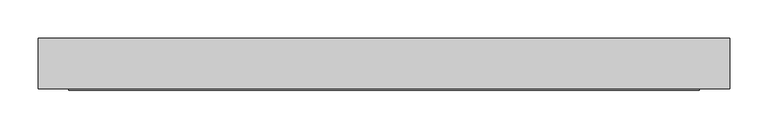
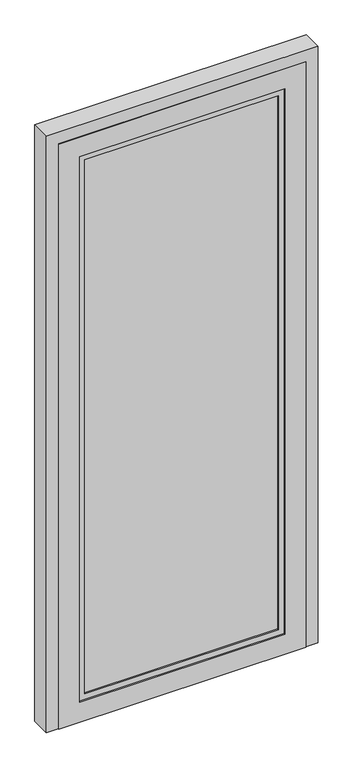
"""IFC4 building model written with IfcOpenShell, lengths in millimetres: plate geometry, ARQ-PA-IN-AluVid-Puerta : ARQ-PA-IN-AluVid-Puerta."""

from ifc_helpers import new_model, si_unit, frame, origin, place, context, project, spatial, polyline, outline, extrude, source, transform, mapped, element, save


def plate_d8b661f9(model_context):
    return source(origin(), model_context, "Body", "SweptSolid", [
        extrude(outline(polyline([(2100.0, -452.5009836), (0.0, -452.5009836), (0.0, -412.5009836), (2060.0, -412.5009836), (2060.0, 412.5009836), (0.0, 412.5009836), (0.0, 452.5009836), (2100.0, 452.5009836), (2100.0, -452.5009836)])), frame((0.0, -33.0, 0.0), z_axis=(0.0, 1.0, 0.0), x_axis=(0.0, 0.0, 1.0)), (0.0, 0.0, 1.0), 66.0),
        extrude(outline(polyline([(322.5009836, -10.0), (322.5009836, -25.0), (-322.5009836, -25.0), (-322.5009836, -10.0), (322.5009836, -10.0)])), frame((0.0, 0.0, 90.0), z_axis=(0.0, 0.0, 1.0), x_axis=(1.0, 0.0, 0.0)), (0.0, 0.0, 1.0), 1880.0),
        extrude(outline(polyline([(1990.0, -342.5009836), (70.0, -342.5009836), (70.0, 342.5009836), (1990.0, 342.5009836), (1990.0, -342.5009836)]), holes=[polyline([(1970.0, -322.5009836), (1970.0, 322.5009836), (90.0, 322.5009836), (90.0, -322.5009836), (1970.0, -322.5009836)])]), frame((0.0, -30.0, 0.0), z_axis=(0.0, 1.0, 0.0), x_axis=(0.0, 0.0, 1.0)), (0.0, 0.0, 1.0), 25.0),
        extrude(outline(polyline([(2060.0, -412.5009836), (0.0, -412.5009836), (0.0, 412.5009836), (2060.0, 412.5009836), (2060.0, -412.5009836)]), holes=[polyline([(1990.0, -342.5009836), (1990.0, 342.5009836), (70.0, 342.5009836), (70.0, -342.5009836), (1990.0, -342.5009836)])]), frame((0.0, -35.0, 0.0), z_axis=(0.0, 1.0, 0.0), x_axis=(0.0, 0.0, 1.0)), (0.0, 0.0, 1.0), 35.0),
    ])


if __name__ == "__main__":
    model = new_model("IFC4")
    model_context = context("Model", 3, world=origin())
    ifc_project = project(units=[si_unit("LENGTHUNIT", "METRE", prefix="MILLI")], contexts=[model_context])
    site = spatial("IfcSite", under=ifc_project)
    building = spatial("IfcBuilding", under=site)
    placement = place(None, origin())
    plate_shape = plate_d8b661f9(model_context)
    element("IfcPlate", 1, ObjectType="ARQ-PA-IN-AluVid-Puerta : ARQ-PA-IN-AluVid-Puerta", at=placement, inside=building, context=model_context, shape_type="MappedRepresentation", body=[
        mapped(plate_shape, transform((0.0, 0.0, 0.0), x_axis=(1.0, 0.0, 0.0), y_axis=(0.0, 1.0, 0.0), z_axis=(0.0, 0.0, 1.0))),
    ])
    save(model, "model.ifc")
